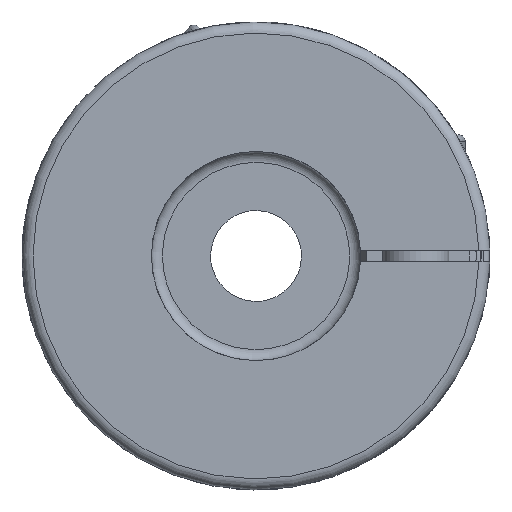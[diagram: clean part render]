
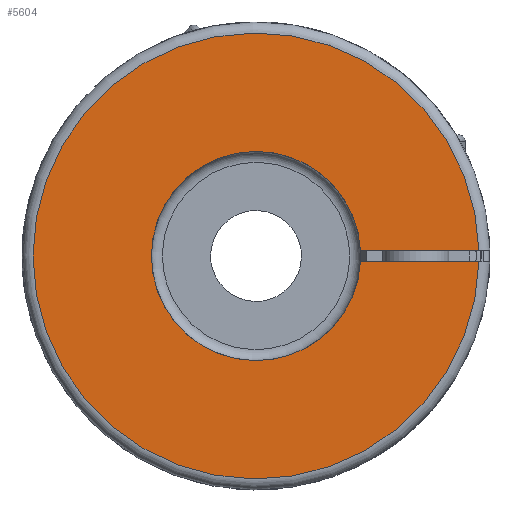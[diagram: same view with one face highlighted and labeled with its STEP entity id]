
A CAD part, left-side view. The second image highlights one B-rep face of the part: STEP entity #5604.
In plain terms, the highlighted planar face has unit normal (-1, 0, 0).
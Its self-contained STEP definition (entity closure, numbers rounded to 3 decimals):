
#93=PLANE('',#5905);
#169=CIRCLE('',#5812,40.5);
#220=CIRCLE('',#5906,19.);
#866=ORIENTED_EDGE('',*,*,#1949,.T.);
#867=ORIENTED_EDGE('',*,*,#1883,.T.);
#868=ORIENTED_EDGE('',*,*,#1946,.T.);
#869=ORIENTED_EDGE('',*,*,#2014,.F.);
#1883=EDGE_CURVE('',#2501,#2503,#169,.T.);
#1946=EDGE_CURVE('',#2503,#2548,#2901,.T.);
#1949=EDGE_CURVE('',#2550,#2501,#2904,.T.);
#2014=EDGE_CURVE('',#2550,#2548,#220,.T.);
#2501=VERTEX_POINT('',#7627);
#2503=VERTEX_POINT('',#7635);
#2548=VERTEX_POINT('',#8011);
#2550=VERTEX_POINT('',#8018);
#2901=LINE('',#8012,#3075);
#2904=LINE('',#8017,#3078);
#3075=VECTOR('',#6481,1000.);
#3078=VECTOR('',#6486,1000.);
#3288=EDGE_LOOP('',(#866,#867,#868,#869));
#3582=FACE_BOUND('',#3288,.T.);
#5604=ADVANCED_FACE('',(#3582),#93,.T.);
#5812=AXIS2_PLACEMENT_3D('',#7636,#6356,#6357);
#5905=AXIS2_PLACEMENT_3D('',#8238,#6578,#6579);
#5906=AXIS2_PLACEMENT_3D('',#8239,#6580,#6581);
#6356=DIRECTION('',(-1.,0.,0.));
#6357=DIRECTION('',(0.,0.,1.));
#6481=DIRECTION('',(0.,1.,0.));
#6486=DIRECTION('',(0.,-1.,0.));
#6578=DIRECTION('',(-1.,0.,0.));
#6579=DIRECTION('',(0.,0.,1.));
#6580=DIRECTION('',(-1.,0.,0.));
#6581=DIRECTION('',(0.,0.,1.));
#7627=CARTESIAN_POINT('',(0.,-40.488,1.));
#7635=CARTESIAN_POINT('',(0.,-40.488,-1.));
#7636=CARTESIAN_POINT('',(0.,0.,0.));
#8011=CARTESIAN_POINT('',(0.,-18.974,-1.));
#8012=CARTESIAN_POINT('',(0.,-42.488,-1.));
#8017=CARTESIAN_POINT('',(0.,-18.974,1.));
#8018=CARTESIAN_POINT('',(0.,-18.974,1.));
#8238=CARTESIAN_POINT('',(0.,0.,19.));
#8239=CARTESIAN_POINT('',(0.,0.,0.));
